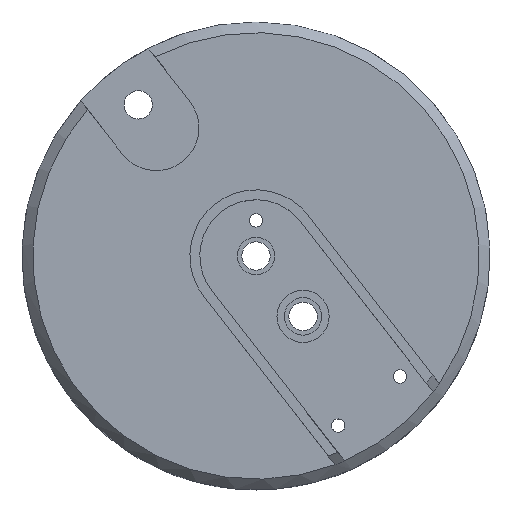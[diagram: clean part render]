
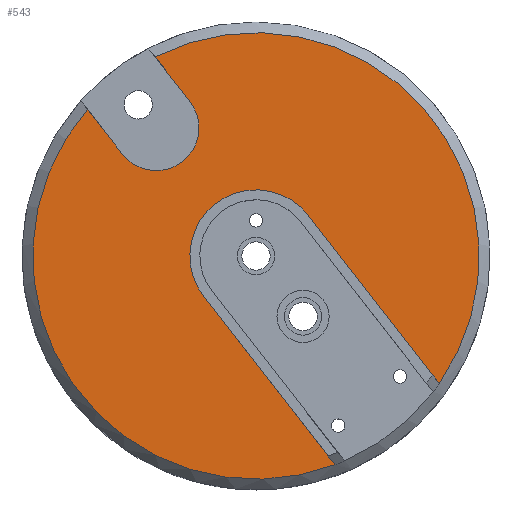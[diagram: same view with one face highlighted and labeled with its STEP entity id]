
A CAD part, top view. The second image highlights one B-rep face of the part: STEP entity #543.
In plain terms, the highlighted planar face has unit normal (0, 0, 1).
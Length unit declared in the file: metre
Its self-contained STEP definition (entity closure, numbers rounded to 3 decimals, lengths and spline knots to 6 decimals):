
#40=LINE('',#863,#62);
#41=LINE('',#867,#63);
#42=LINE('',#871,#64);
#43=LINE('',#875,#65);
#62=VECTOR('',#680,1.);
#63=VECTOR('',#683,1.);
#64=VECTOR('',#686,1.);
#65=VECTOR('',#689,1.);
#84=ORIENTED_EDGE('',*,*,#224,.T.);
#85=ORIENTED_EDGE('',*,*,#225,.T.);
#86=ORIENTED_EDGE('',*,*,#226,.F.);
#87=ORIENTED_EDGE('',*,*,#227,.T.);
#88=ORIENTED_EDGE('',*,*,#228,.T.);
#89=ORIENTED_EDGE('',*,*,#229,.T.);
#90=ORIENTED_EDGE('',*,*,#230,.F.);
#91=ORIENTED_EDGE('',*,*,#231,.F.);
#224=EDGE_CURVE('',#294,#295,#347,.T.);
#225=EDGE_CURVE('',#295,#296,#40,.T.);
#226=EDGE_CURVE('',#297,#296,#348,.T.);
#227=EDGE_CURVE('',#297,#298,#41,.T.);
#228=EDGE_CURVE('',#298,#299,#349,.T.);
#229=EDGE_CURVE('',#299,#300,#42,.T.);
#230=EDGE_CURVE('',#301,#300,#350,.T.);
#231=EDGE_CURVE('',#294,#301,#43,.T.);
#294=VERTEX_POINT('',#861);
#295=VERTEX_POINT('',#862);
#296=VERTEX_POINT('',#864);
#297=VERTEX_POINT('',#866);
#298=VERTEX_POINT('',#868);
#299=VERTEX_POINT('',#870);
#300=VERTEX_POINT('',#872);
#301=VERTEX_POINT('',#874);
#347=CIRCLE('',#595,0.008);
#348=CIRCLE('',#596,0.041714);
#349=CIRCLE('',#597,0.01235);
#350=CIRCLE('',#598,0.041714);
#389=EDGE_LOOP('',(#84,#85,#86,#87,#88,#89,#90,#91));
#458=FACE_BOUND('',#389,.T.);
#527=PLANE('',#594);
#543=ADVANCED_FACE('',(#458),#527,.T.);
#594=AXIS2_PLACEMENT_3D('',#859,#676,#677);
#595=AXIS2_PLACEMENT_3D('',#860,#678,#679);
#596=AXIS2_PLACEMENT_3D('',#865,#681,#682);
#597=AXIS2_PLACEMENT_3D('',#869,#684,#685);
#598=AXIS2_PLACEMENT_3D('',#873,#687,#688);
#676=DIRECTION('',(0.,0.,1.));
#677=DIRECTION('',(0.,1.,0.));
#678=DIRECTION('',(0.,0.,-1.));
#679=DIRECTION('',(1.,0.,0.));
#680=DIRECTION('',(-0.615,0.789,0.));
#681=DIRECTION('',(0.,0.,-1.));
#682=DIRECTION('',(0.,1.,0.));
#683=DIRECTION('',(-0.615,0.789,0.));
#684=DIRECTION('',(0.,0.,-1.));
#685=DIRECTION('',(-1.,0.,0.));
#686=DIRECTION('',(0.615,-0.789,0.));
#687=DIRECTION('',(0.,0.,-1.));
#688=DIRECTION('',(0.,1.,0.));
#689=DIRECTION('',(-0.615,0.789,0.));
#859=CARTESIAN_POINT('',(0.244,0.,0.006575));
#860=CARTESIAN_POINT('',(0.225346,0.02394,0.006575));
#861=CARTESIAN_POINT('',(0.231656,0.028857,0.006575));
#862=CARTESIAN_POINT('',(0.219035,0.019023,0.006575));
#863=CARTESIAN_POINT('',(0.205679,0.036164,0.006575));
#864=CARTESIAN_POINT('',(0.212527,0.027376,0.006575));
#865=CARTESIAN_POINT('',(0.244,0.,0.006575));
#866=CARTESIAN_POINT('',(0.258748,-0.03902,0.006575));
#867=CARTESIAN_POINT('',(0.246503,-0.023305,0.006575));
#868=CARTESIAN_POINT('',(0.234258,-0.007591,0.006575));
#869=CARTESIAN_POINT('',(0.244,0.,0.006575));
#870=CARTESIAN_POINT('',(0.253742,0.007591,0.006575));
#871=CARTESIAN_POINT('',(0.265986,-0.008123,0.006575));
#872=CARTESIAN_POINT('',(0.278231,-0.023838,0.006575));
#873=CARTESIAN_POINT('',(0.244,0.,0.006575));
#874=CARTESIAN_POINT('',(0.225147,0.03721,0.006575));
#875=CARTESIAN_POINT('',(0.215897,0.049081,0.006575));
